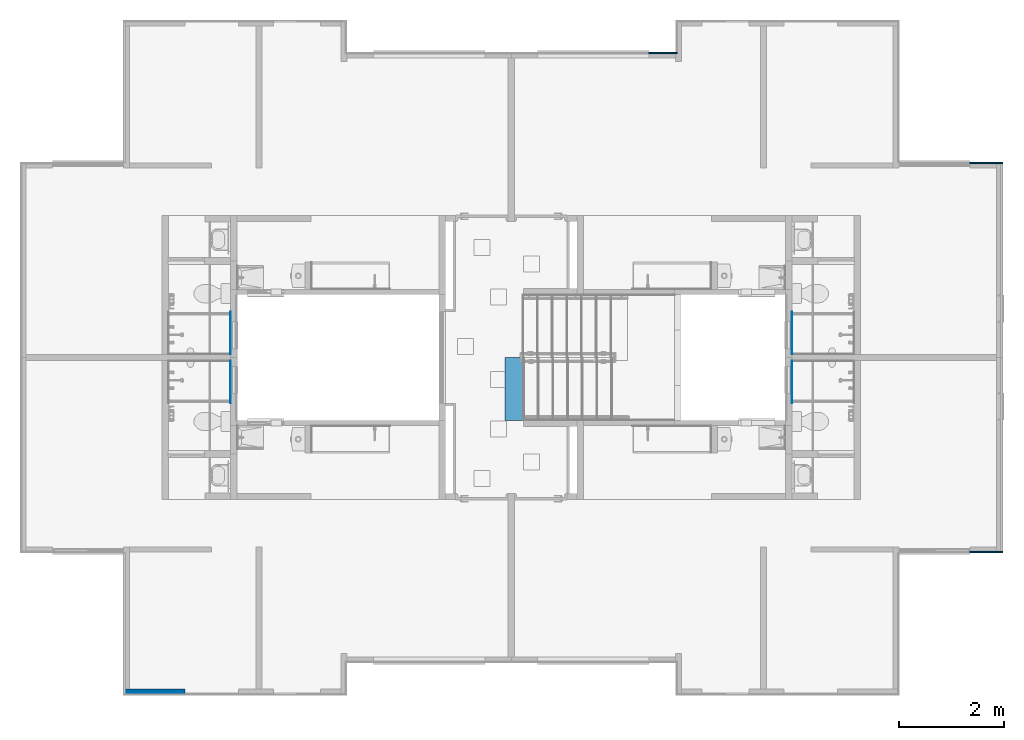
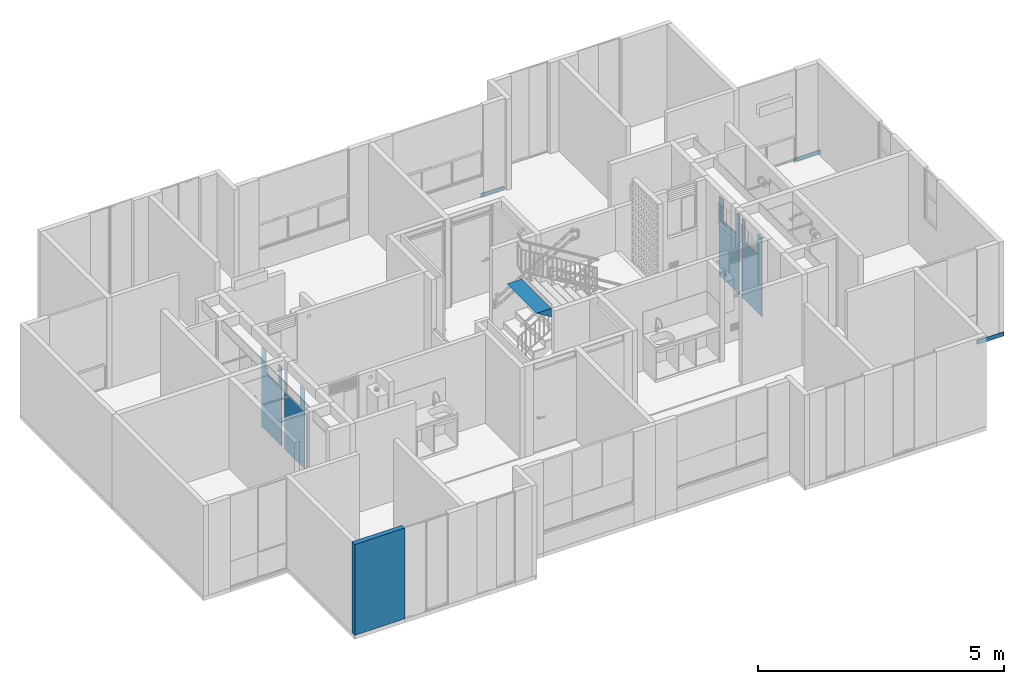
# One storey, part 28 of 48: 8 walls, 1 stair, 5 openings.
"""IFC4 building model written with IfcOpenShell, lengths in metres."""

from ifc_helpers import new_model, entity, si_unit, converted_unit, derived_unit, direction, frame, origin, place, context, subcontext, project, spatial, indexed_curve, outline, extrude, polygons, material, type_object, element, save


model = new_model("IFC4")

# Units and contexts
model_context = context("Model", 3, precision=1e-05, world=origin(), true_north=direction((6.123031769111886e-17, 1.0)))
body_context = subcontext(model_context, "Body", "Model", "MODEL_VIEW")
ifc_project = project(units=[si_unit("LENGTHUNIT", "METRE"), si_unit("AREAUNIT", "SQUARE_METRE"), si_unit("VOLUMEUNIT", "CUBIC_METRE"), converted_unit("PLANEANGLEUNIT", "DEGREE", entity("IfcRatioMeasure", 0.017453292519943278), si_unit("PLANEANGLEUNIT", "RADIAN"), dimensions=[0, 0, 0, 0, 0, 0, 0]), si_unit("MASSUNIT", "GRAM", prefix="KILO"), derived_unit("MASSDENSITYUNIT", [(si_unit("MASSUNIT", "GRAM", prefix="KILO"), 1), (si_unit("LENGTHUNIT", "METRE"), -3)]), derived_unit("IONCONCENTRATIONUNIT", [(si_unit("MASSUNIT", "GRAM", prefix="KILO"), 1), (si_unit("LENGTHUNIT", "METRE"), -3)]), derived_unit("MOMENTOFINERTIAUNIT", [(si_unit("LENGTHUNIT", "METRE"), 4)]), si_unit("TIMEUNIT", "SECOND"), si_unit("FREQUENCYUNIT", "HERTZ"), si_unit("THERMODYNAMICTEMPERATUREUNIT", "DEGREE_CELSIUS"), derived_unit("THERMALTRANSMITTANCEUNIT", [(si_unit("MASSUNIT", "GRAM", prefix="KILO"), 1), (si_unit("THERMODYNAMICTEMPERATUREUNIT", "KELVIN"), -1), (si_unit("TIMEUNIT", "SECOND"), -3)]), derived_unit("THERMALCONDUCTANCEUNIT", [(si_unit("MASSUNIT", "GRAM", prefix="KILO"), 1), (si_unit("THERMODYNAMICTEMPERATUREUNIT", "KELVIN"), -1), (si_unit("TIMEUNIT", "SECOND"), -3), (si_unit("LENGTHUNIT", "METRE"), 1)]), derived_unit("VOLUMETRICFLOWRATEUNIT", [(si_unit("LENGTHUNIT", "METRE"), 3), (si_unit("TIMEUNIT", "SECOND"), -1)]), derived_unit("MASSFLOWRATEUNIT", [(si_unit("MASSUNIT", "GRAM", prefix="KILO"), 1), (si_unit("TIMEUNIT", "SECOND"), -1)]), derived_unit("ROTATIONALFREQUENCYUNIT", [(si_unit("TIMEUNIT", "SECOND"), -1)]), si_unit("ELECTRICCURRENTUNIT", "AMPERE"), si_unit("ELECTRICVOLTAGEUNIT", "VOLT"), si_unit("POWERUNIT", "WATT"), si_unit("FORCEUNIT", "NEWTON", prefix="KILO"), si_unit("ILLUMINANCEUNIT", "LUX"), si_unit("LUMINOUSFLUXUNIT", "LUMEN"), si_unit("LUMINOUSINTENSITYUNIT", "CANDELA"), derived_unit("USERDEFINED", [(si_unit("MASSUNIT", "GRAM", prefix="KILO"), -1), (si_unit("LENGTHUNIT", "METRE"), -2), (si_unit("TIMEUNIT", "SECOND"), 3), (si_unit("LUMINOUSFLUXUNIT", "LUMEN"), 1)]), derived_unit("USERDEFINED", [(si_unit("MASSUNIT", "GRAM", prefix="KILO"), 1), (si_unit("TIMEUNIT", "SECOND"), -3), (si_unit("LENGTHUNIT", "METRE"), 3), (si_unit("ELECTRICCURRENTUNIT", "AMPERE"), -2)]), derived_unit("SOUNDPOWERUNIT", [(si_unit("MASSUNIT", "GRAM", prefix="KILO"), 1), (si_unit("TIMEUNIT", "SECOND"), -3), (si_unit("LENGTHUNIT", "METRE"), 2)]), derived_unit("SOUNDPRESSUREUNIT", [(si_unit("MASSUNIT", "GRAM", prefix="KILO"), 1), (si_unit("LENGTHUNIT", "METRE"), -1), (si_unit("TIMEUNIT", "SECOND"), -2)]), derived_unit("LINEARVELOCITYUNIT", [(si_unit("LENGTHUNIT", "METRE"), 1), (si_unit("TIMEUNIT", "SECOND"), -1)]), si_unit("PRESSUREUNIT", "PASCAL"), derived_unit("USERDEFINED", [(si_unit("MASSUNIT", "GRAM", prefix="KILO"), 1), (si_unit("LENGTHUNIT", "METRE"), -2), (si_unit("TIMEUNIT", "SECOND"), -2)]), derived_unit("LINEARFORCEUNIT", [(si_unit("MASSUNIT", "GRAM", prefix="KILO"), 1), (si_unit("TIMEUNIT", "SECOND"), -2)]), derived_unit("PLANARFORCEUNIT", [(si_unit("MASSUNIT", "GRAM", prefix="KILO"), 1), (si_unit("LENGTHUNIT", "METRE"), -1), (si_unit("TIMEUNIT", "SECOND"), -2)]), derived_unit("SPECIFICHEATCAPACITYUNIT", [(si_unit("THERMODYNAMICTEMPERATUREUNIT", "KELVIN"), -1), (si_unit("LENGTHUNIT", "METRE"), 2), (si_unit("TIMEUNIT", "SECOND"), -2)]), derived_unit("HEATINGVALUEUNIT", [(si_unit("LENGTHUNIT", "METRE"), 2), (si_unit("TIMEUNIT", "SECOND"), -2)]), derived_unit("VAPORPERMEABILITYUNIT", [(si_unit("LENGTHUNIT", "METRE"), -1), (si_unit("TIMEUNIT", "SECOND"), 1)]), derived_unit("DYNAMICVISCOSITYUNIT", [(si_unit("MASSUNIT", "GRAM", prefix="KILO"), 1), (si_unit("TIMEUNIT", "SECOND"), -1), (si_unit("LENGTHUNIT", "METRE"), -1)]), derived_unit("THERMALEXPANSIONCOEFFICIENTUNIT", [(si_unit("THERMODYNAMICTEMPERATUREUNIT", "KELVIN"), -1)]), derived_unit("MODULUSOFELASTICITYUNIT", [(si_unit("MASSUNIT", "GRAM", prefix="KILO"), 1), (si_unit("LENGTHUNIT", "METRE"), -1), (si_unit("TIMEUNIT", "SECOND"), -2)]), derived_unit("ISOTHERMALMOISTURECAPACITYUNIT", [(si_unit("LENGTHUNIT", "METRE"), 3), (si_unit("MASSUNIT", "GRAM", prefix="KILO"), -1)]), derived_unit("MOISTUREDIFFUSIVITYUNIT", [(si_unit("TIMEUNIT", "SECOND"), -1), (si_unit("LENGTHUNIT", "METRE"), 2)])], contexts=[model_context])

# Site, building, storey
site_placement = place(None, origin())
site = spatial("IfcSite", under=ifc_project, at=site_placement, Name="Default", CompositionType="ELEMENT")
building_placement = place(site_placement, origin())
building = spatial("IfcBuilding", under=site, at=building_placement, CompositionType="ELEMENT")
storey_placement = place(building_placement, frame((0.0, 0.0, 7.050000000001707)))
storey = spatial("IfcBuildingStorey", under=building, at=storey_placement, Name="Nivel 4", CompositionType="ELEMENT", Elevation=7.050000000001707)

# Wall, opening
ifc_material_1 = material(Name="LADRILLO CLARO", Category="Materials")
wall_type_1 = type_object("IfcWallType", Name="Basic Wall:B2010 - 0.115m - ME mampostería no estructural - Ladrillo", PredefinedType="STANDARD")
wall_1_placement = place(storey_placement, frame((3.091699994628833, -12.812500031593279, 0.0), z_axis=(0.0, 0.0, 1.0), x_axis=(-1.0, 0.0, 0.0)))
wall_1 = element("IfcWall", 1, at=wall_1_placement, inside=storey, type_object=wall_type_1, material=ifc_material_1, Name="Basic Wall:B2010 - 0.115m - ME mampostería no estructural - Ladrillo", ObjectType="Basic Wall:B2010 - 0.115m - ME mampostería no estructural - Ladrillo", PredefinedType="NOTDEFINED", context=body_context, shape_type="Tessellation", body=[
    polygons([(1.0862894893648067e-16, -0.057499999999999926, -1.0828671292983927e-15), (1.1741999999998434, -0.057499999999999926, -1.0828671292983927e-15), (1.1741999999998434, -0.057499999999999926, 2.2500000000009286), (1.0862894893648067e-16, -0.057499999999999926, 2.2500000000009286), (-5.298817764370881e-16, 0.057499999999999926, -1.0828671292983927e-15), (-5.298817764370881e-16, 0.057499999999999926, 2.2500000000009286), (1.1741999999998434, 0.057499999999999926, 2.2500000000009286), (1.1741999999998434, 0.057499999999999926, -1.0828671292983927e-15)], [[[1, 2, 3, 4]], [[5, 6, 7, 8]], [[2, 1, 5, 8]], [[3, 2, 8, 7]], [[4, 3, 7, 6]], [[1, 4, 6, 5]]], closed=True),
])
opening_1_placement = place(wall_1_placement, origin())
element("IfcOpeningElement", 2, at=opening_1_placement, cuts=wall_1, Name="Basic Wall:B2010 - 0.115m - ME mampostería no estructural - Ladrillo", PredefinedType="OPENING", context=body_context, shape_type="SweptSolid", body=[
    extrude(outline(indexed_curve([(-0.5099999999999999, -1.1249999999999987), (0.5099999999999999, -1.1249999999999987), (0.5099999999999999, 1.1249999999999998), (-0.5099999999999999, 1.1249999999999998), (-0.5099999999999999, -1.1249999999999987)], self_intersect=False)), frame((-0.5099999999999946, -1.581499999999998, 1.1250000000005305), z_axis=(0.0, 1.0, 0.0), x_axis=(-1.0, 0.0, 0.0)), (0.0, 0.0, 1.0), 3.048),
])

ifc_material_2 = material(Name="Ceramica 0.25m x 0.35m", Category="Materials")
wall_type_2 = type_object("IfcWallType", Name="Basic Wall:C2010 - 0.25 x 0.35 - Enchape cerámico", PredefinedType="STANDARD")
wall_2_placement = place(storey_placement, frame((3.9574999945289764, -6.365000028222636, 0.02999999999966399), z_axis=(0.0, 0.0, 1.0), x_axis=(0.0, 1.0, 0.0)))
wall_2 = element("IfcWall", 3, at=wall_2_placement, inside=storey, type_object=wall_type_2, material=ifc_material_2, Name="Basic Wall:C2010 - 0.25 x 0.35 - Enchape cerámico", ObjectType="Basic Wall:C2010 - 0.25 x 0.35 - Enchape cerámico", PredefinedType="NOTDEFINED", context=body_context, shape_type="Tessellation", body=[
    polygons([(0.0, -0.0049999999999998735, 0.0), (0.8099999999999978, -0.00499999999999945, 0.0), (0.8099999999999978, -0.00499999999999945, 1.9699999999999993), (0.6309543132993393, -0.00500000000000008, 1.9699999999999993), (0.6309543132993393, -0.00500000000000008, 1.4500000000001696), (0.11095431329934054, -0.00499999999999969, 1.4500000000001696), (0.11095431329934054, -0.00499999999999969, 1.9699999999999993), (0.0, -0.0049999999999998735, 1.9699999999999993), (0.0, 0.005000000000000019, 0.0), (0.0, 0.005000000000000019, 1.9699999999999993), (0.009999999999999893, 0.005000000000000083, 1.9699999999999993), (0.11095431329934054, 0.005000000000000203, 1.9699999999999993), (0.11095431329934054, 0.005000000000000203, 1.4500000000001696), (0.6309543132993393, 0.004999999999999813, 1.4500000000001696), (0.6309543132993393, 0.004999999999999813, 1.9699999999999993), (0.8099999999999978, 0.004999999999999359, 1.9699999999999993), (0.8099999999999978, 0.004999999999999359, 0.0), (0.009999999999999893, 0.005000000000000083, 0.0)], [[[1, 2, 3, 4, 5, 6, 7, 8]], [[9, 10, 11, 12, 13, 14, 15, 16, 17, 18]], [[2, 1, 9, 18, 17]], [[3, 2, 17, 16]], [[4, 3, 16, 15]], [[5, 4, 15, 14]], [[6, 5, 14, 13]], [[7, 6, 13, 12]], [[8, 7, 12, 11, 10]], [[1, 8, 10, 9]]], closed=True),
])
opening_2_placement = place(wall_2_placement, origin())
element("IfcOpeningElement", 4, at=opening_2_placement, cuts=wall_2, Name="Basic Wall:C2010 - 0.25 x 0.35 - Enchape cerámico", PredefinedType="OPENING", context=body_context, shape_type="SweptSolid", body=[
    extrude(outline(indexed_curve([(-0.2599999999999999, -0.25999999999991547), (0.25999999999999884, -0.25999999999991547), (0.2599999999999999, 0.25999999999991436), (-0.25999999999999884, 0.25999999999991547), (-0.2599999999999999, -0.25999999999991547)], self_intersect=False)), frame((0.3709543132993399, 0.004999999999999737, 1.7100000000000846), z_axis=(0.0, -1.0, 0.0), x_axis=(-1.0, 0.0, 0.0)), (0.0, 0.0, 1.0), 0.01),
])

wall_3_placement = place(storey_placement, frame((3.957499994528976, -6.485000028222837, 0.02999999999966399), z_axis=(0.0, 0.0, 1.0), x_axis=(0.0, -1.0, 0.0)))
wall_3 = element("IfcWall", 5, at=wall_3_placement, inside=storey, type_object=wall_type_2, material=ifc_material_2, Name="Basic Wall:C2010 - 0.25 x 0.35 - Enchape cerámico", ObjectType="Basic Wall:C2010 - 0.25 x 0.35 - Enchape cerámico", PredefinedType="NOTDEFINED", context=body_context, shape_type="Tessellation", body=[
    polygons([(0.0, -0.0049999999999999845, 0.0), (0.009999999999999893, -0.004999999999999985, 0.0), (0.8099999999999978, -0.005000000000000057, 0.0), (0.8099999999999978, -0.005000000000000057, 1.9699999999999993), (0.6309543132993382, -0.00500000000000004, 1.9699999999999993), (0.6309543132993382, -0.00500000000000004, 1.4500000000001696), (0.11095431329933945, -0.004999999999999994, 1.4500000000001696), (0.11095431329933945, -0.004999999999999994, 1.9699999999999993), (0.009999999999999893, -0.004999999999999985, 1.9699999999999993), (0.0, -0.0049999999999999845, 1.9699999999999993), (0.0, 0.004999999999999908, 0.0), (0.0, 0.004999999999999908, 1.9699999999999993), (0.11095431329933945, 0.004999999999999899, 1.9699999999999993), (0.11095431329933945, 0.004999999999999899, 1.4500000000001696), (0.6309543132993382, 0.004999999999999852, 1.4500000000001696), (0.6309543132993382, 0.004999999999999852, 1.9699999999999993), (0.8099999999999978, 0.004999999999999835, 1.9699999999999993), (0.8099999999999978, 0.004999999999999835, 0.0)], [[[1, 2, 3, 4, 5, 6, 7, 8, 9, 10]], [[11, 12, 13, 14, 15, 16, 17, 18]], [[3, 2, 1, 11, 18]], [[4, 3, 18, 17]], [[5, 4, 17, 16]], [[6, 5, 16, 15]], [[7, 6, 15, 14]], [[8, 7, 14, 13]], [[10, 9, 8, 13, 12]], [[1, 10, 12, 11]]], closed=True),
])
opening_3_placement = place(wall_3_placement, origin())
element("IfcOpeningElement", 6, at=opening_3_placement, cuts=wall_3, Name="Basic Wall:C2010 - 0.25 x 0.35 - Enchape cerámico", PredefinedType="OPENING", context=body_context, shape_type="SweptSolid", body=[
    extrude(outline(indexed_curve([(-0.2599999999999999, -0.25999999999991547), (0.25999999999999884, -0.25999999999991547), (0.2599999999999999, 0.25999999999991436), (-0.25999999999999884, 0.25999999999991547), (-0.2599999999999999, -0.25999999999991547)], self_intersect=False)), frame((0.3709543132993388, 0.004999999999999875, 1.7100000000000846), z_axis=(0.0, -1.0, 0.0), x_axis=(-1.0, 0.0, 0.0)), (0.0, 0.0, 1.0), 0.01),
])

wall_4_placement = place(storey_placement, frame((14.687500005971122, -6.3650000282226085, 0.02999999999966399), z_axis=(0.0, 0.0, 1.0), x_axis=(0.0, 1.0, 0.0)))
wall_4 = element("IfcWall", 7, at=wall_4_placement, inside=storey, type_object=wall_type_2, material=ifc_material_2, Name="Basic Wall:C2010 - 0.25 x 0.35 - Enchape cerámico", ObjectType="Basic Wall:C2010 - 0.25 x 0.35 - Enchape cerámico", PredefinedType="NOTDEFINED", context=body_context, shape_type="Tessellation", body=[
    polygons([(0.0, -0.004999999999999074, 0.0), (0.009999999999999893, -0.004999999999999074, 0.0), (0.8099999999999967, -0.004999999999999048, 0.0), (0.8099999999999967, -0.004999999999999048, 1.9699999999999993), (0.6309543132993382, -0.004999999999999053, 1.9699999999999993), (0.6309543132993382, -0.004999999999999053, 1.4500000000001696), (0.11095431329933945, -0.00499999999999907, 1.4500000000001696), (0.11095431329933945, -0.00499999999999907, 1.9699999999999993), (0.009999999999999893, -0.004999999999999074, 1.9699999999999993), (0.0, -0.004999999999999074, 1.9699999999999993), (0.0, 0.004999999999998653, 0.0), (0.0, 0.004999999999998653, 1.9699999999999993), (0.11095431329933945, 0.004999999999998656, 1.9699999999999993), (0.11095431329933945, 0.004999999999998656, 1.4500000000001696), (0.6309543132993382, 0.004999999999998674, 1.4500000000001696), (0.6309543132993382, 0.004999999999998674, 1.9699999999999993), (0.8099999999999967, 0.004999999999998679, 1.9699999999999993), (0.8099999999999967, 0.004999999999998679, 0.0)], [[[1, 2, 3, 4, 5, 6, 7, 8, 9, 10]], [[11, 12, 13, 14, 15, 16, 17, 18]], [[3, 2, 1, 11, 18]], [[4, 3, 18, 17]], [[5, 4, 17, 16]], [[6, 5, 16, 15]], [[7, 6, 15, 14]], [[8, 7, 14, 13]], [[10, 9, 8, 13, 12]], [[1, 10, 12, 11]]], closed=True),
])
opening_4_placement = place(wall_4_placement, origin())
element("IfcOpeningElement", 8, at=opening_4_placement, cuts=wall_4, Name="Basic Wall:C2010 - 0.25 x 0.35 - Enchape cerámico", PredefinedType="OPENING", context=body_context, shape_type="SweptSolid", body=[
    extrude(outline(indexed_curve([(-0.2599999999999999, -0.25999999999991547), (0.25999999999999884, -0.25999999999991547), (0.2599999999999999, 0.25999999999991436), (-0.25999999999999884, 0.25999999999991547), (-0.2599999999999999, -0.25999999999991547)], self_intersect=False)), frame((0.3709543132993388, 0.00500000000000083, 1.7100000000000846), z_axis=(0.0, -1.0, 0.0), x_axis=(-1.0, 0.0, 0.0)), (0.0, 0.0, 1.0), 0.01),
])

wall_5_placement = place(storey_placement, frame((14.687500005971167, -6.485000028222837, 0.02999999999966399), z_axis=(0.0, 0.0, 1.0), x_axis=(0.0, -1.0, 0.0)))
wall_5 = element("IfcWall", 9, at=wall_5_placement, inside=storey, type_object=wall_type_2, material=ifc_material_2, Name="Basic Wall:C2010 - 0.25 x 0.35 - Enchape cerámico", ObjectType="Basic Wall:C2010 - 0.25 x 0.35 - Enchape cerámico", PredefinedType="NOTDEFINED", context=body_context, shape_type="Tessellation", body=[
    polygons([(0.0, -0.004999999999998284, 0.0), (0.8099999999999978, -0.004999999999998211, 0.0), (0.8099999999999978, -0.004999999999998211, 1.9699999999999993), (0.6309543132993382, -0.004999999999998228, 1.9699999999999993), (0.6309543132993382, -0.004999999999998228, 1.4500000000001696), (0.11095431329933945, -0.004999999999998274, 1.4500000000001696), (0.11095431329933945, -0.004999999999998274, 1.9699999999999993), (0.0, -0.004999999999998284, 1.9699999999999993), (0.0, 0.005000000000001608, 0.0), (0.0, 0.005000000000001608, 1.9699999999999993), (0.009999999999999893, 0.00500000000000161, 1.9699999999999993), (0.11095431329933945, 0.005000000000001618, 1.9699999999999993), (0.11095431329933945, 0.005000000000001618, 1.4500000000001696), (0.6309543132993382, 0.005000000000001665, 1.4500000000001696), (0.6309543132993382, 0.005000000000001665, 1.9699999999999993), (0.8099999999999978, 0.005000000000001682, 1.9699999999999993), (0.8099999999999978, 0.005000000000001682, 0.0), (0.009999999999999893, 0.00500000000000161, 0.0)], [[[1, 2, 3, 4, 5, 6, 7, 8]], [[9, 10, 11, 12, 13, 14, 15, 16, 17, 18]], [[2, 1, 9, 18, 17]], [[3, 2, 17, 16]], [[4, 3, 16, 15]], [[5, 4, 15, 14]], [[6, 5, 14, 13]], [[7, 6, 13, 12]], [[8, 7, 12, 11, 10]], [[1, 8, 10, 9]]], closed=True),
])
opening_5_placement = place(wall_5_placement, origin())
element("IfcOpeningElement", 10, at=opening_5_placement, cuts=wall_5, Name="Basic Wall:C2010 - 0.25 x 0.35 - Enchape cerámico", PredefinedType="OPENING", context=body_context, shape_type="SweptSolid", body=[
    extrude(outline(indexed_curve([(-0.2599999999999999, -0.25999999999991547), (0.25999999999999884, -0.25999999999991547), (0.2599999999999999, 0.25999999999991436), (-0.25999999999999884, 0.25999999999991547), (-0.2599999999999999, -0.25999999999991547)], self_intersect=False)), frame((0.3709543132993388, 0.005000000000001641, 1.7100000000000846), z_axis=(0.0, -1.0, 0.0), x_axis=(-1.0, 0.0, 0.0)), (0.0, 0.0, 1.0), 0.01),
])

# Walls
wall_type_3 = type_object("IfcWallType", Name="Basic Wall:B2010 - 0.03m - ME enchape  no estructural - Ladrillo", PredefinedType="STANDARD")
wall_6_placement = place(storey_placement, frame((18.702500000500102, -2.710000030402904, -0.10000000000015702), z_axis=(0.0, 0.0, 1.0), x_axis=(-1.0, 0.0, 0.0)))
element("IfcWall", 11, at=wall_6_placement, inside=storey, type_object=wall_type_3, material=ifc_material_1, Name="Basic Wall:B2010 - 0.03m - ME enchape  no estructural - Ladrillo", ObjectType="Basic Wall:B2010 - 0.03m - ME enchape  no estructural - Ladrillo", PredefinedType="NOTDEFINED", context=body_context, shape_type="SweptSolid", body=[
    extrude(outline(indexed_curve([(0.624999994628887, 0.014999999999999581), (3.050576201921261e-16, 0.014999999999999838), (-3.050576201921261e-16, -0.014999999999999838), (0.6249999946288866, -0.015000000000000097), (0.624999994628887, 0.014999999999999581)], self_intersect=False)), origin(), (0.0, 0.0, 1.0), 0.09999999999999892),
])
wall_7_placement = place(storey_placement, frame((18.702500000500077, -10.140000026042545, -0.10000000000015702), z_axis=(0.0, 0.0, 1.0), x_axis=(-1.0, 0.0, 0.0)))
element("IfcWall", 12, at=wall_7_placement, inside=storey, type_object=wall_type_3, material=ifc_material_1, Name="Basic Wall:B2010 - 0.03m - ME enchape  no estructural - Ladrillo", ObjectType="Basic Wall:B2010 - 0.03m - ME enchape  no estructural - Ladrillo", PredefinedType="NOTDEFINED", context=body_context, shape_type="SweptSolid", body=[
    extrude(outline(indexed_curve([(0.6249999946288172, 0.015000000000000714), (-3.068945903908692e-16, 0.015000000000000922), (3.068945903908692e-16, -0.015000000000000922), (0.6249999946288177, -0.015000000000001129), (0.6249999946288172, 0.015000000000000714)], self_intersect=False)), origin(), (0.0, 0.0, 1.0), 0.09999999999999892),
])
wall_8_placement = place(storey_placement, frame((11.952500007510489, -0.6100000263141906, -0.10000000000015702)))
element("IfcWall", 13, at=wall_8_placement, inside=storey, type_object=wall_type_3, material=ifc_material_1, Name="Basic Wall:B2010 - 0.03m - ME enchape  no estructural - Ladrillo", ObjectType="Basic Wall:B2010 - 0.03m - ME enchape  no estructural - Ladrillo", PredefinedType="NOTDEFINED", context=body_context, shape_type="SweptSolid", body=[
    extrude(outline(indexed_curve([(0.5400000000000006, 0.014999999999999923), (-4.746061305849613e-17, 0.014999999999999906), (4.7460613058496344e-17, -0.014999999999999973), (0.5400000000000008, -0.015000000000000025), (0.5400000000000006, 0.014999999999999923)], self_intersect=False)), origin(), (0.0, 0.0, 1.0), 0.09999999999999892),
])

# Stair
ifc_material_3 = material(Name="Concreto (Aire)", Category="Materials")
stair_type = type_object("IfcStairType", Name="ESCALON4:ESCALON", PredefinedType="NOTDEFINED")
stair_placement = place(storey_placement, origin())
element("IfcStair", 14, at=stair_placement, inside=storey, type_object=stair_type, material=ifc_material_3, Name="ESCALON4:ESCALON", ObjectType="ESCALON4:ESCALON", PredefinedType="NOTDEFINED", context=body_context, shape_type="SweptSolid", body=[
    extrude(outline(indexed_curve([(-0.070128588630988, -0.1155059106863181), (0.14025717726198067, -0.1155059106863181), (-0.07012858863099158, 0.2310118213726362), (-0.070128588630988, -0.1155059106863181)], self_intersect=False)), frame((9.436994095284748, -7.625000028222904, 2.1798714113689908), z_axis=(0.0, 1.0, 0.0), x_axis=(0.0, 0.0, -1.0)), (0.0, 0.0, 1.0), 1.200000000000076),
])

save(model, "model.ifc")
